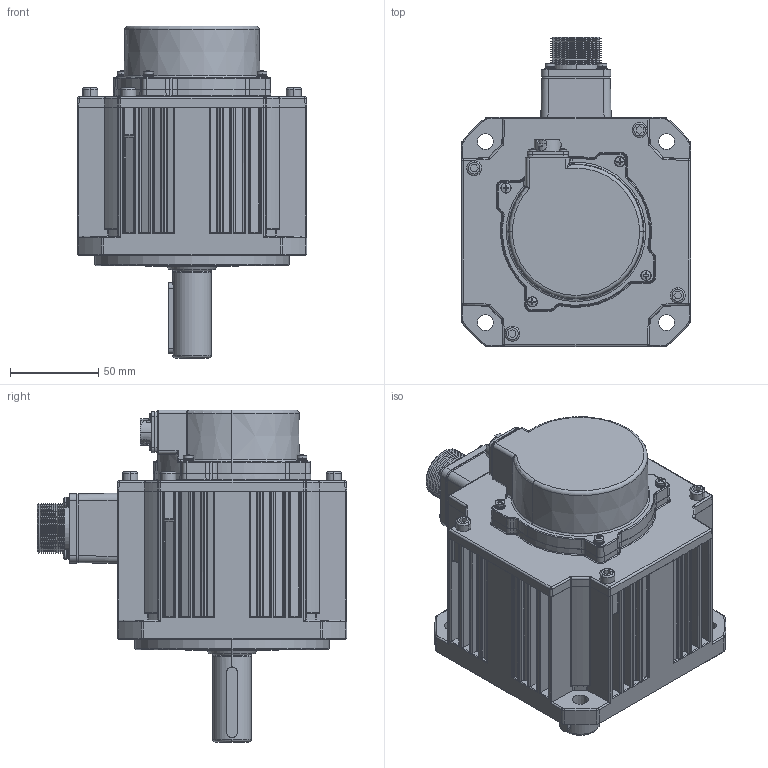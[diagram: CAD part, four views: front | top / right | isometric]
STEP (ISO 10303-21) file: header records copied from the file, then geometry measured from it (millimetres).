
FILE_DESCRIPTION (( 'STEP AP203' ), '1' );
FILE_NAME ('G3-130-5.28NM标准电机三维图.STEP', '2022-12-05T11:24:48', ( '微软用户' ), ( '微软中国' ), 'SwSTEP 2.0', 'SolidWorks 2016', '' );
FILE_SCHEMA (( 'CONFIG_CONTROL_DESIGN' ));
Products named in the file (1): G3-130-5.28NM标准电机三维图
Bounding box: 130 x 175.3 x 188 mm (x, y, z)
Volume: 563064.7 mm3; surface area: 260429.4 mm2
Topology: 26 solids, 26 shells, 3449 faces, 8825 edges, 5539 vertices
Faces by surface type: plane 1244, cylinder 855, bspline 536, cone 493, torus 226, sphere 95
Entity records: 123621 total; most frequent: CARTESIAN_POINT 43565, ORIENTED_EDGE 17414, DIRECTION 15723, EDGE_CURVE 8707, AXIS2_PLACEMENT_3D 5661, VERTEX_POINT 5507, VECTOR 4401, LINE 4401
